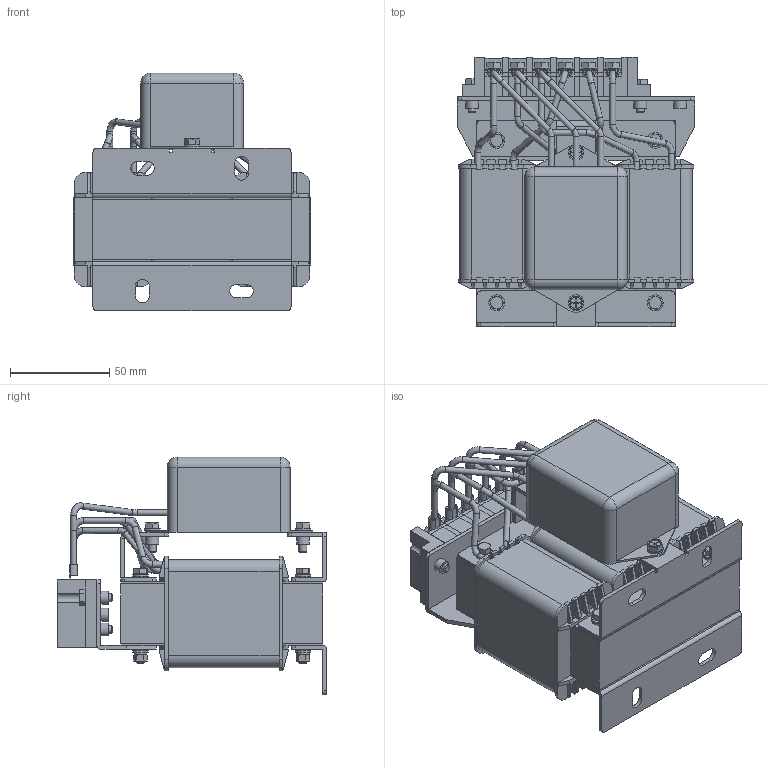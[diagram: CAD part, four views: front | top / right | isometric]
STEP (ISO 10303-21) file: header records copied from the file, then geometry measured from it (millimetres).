
FILE_DESCRIPTION(('STEP AP203'), '1');
FILE_NAME('IDUDT-7.5_20-4 _ dU_dt ôèëüòð 7.5 êÂò', '', ('UNSPECIFIED'), ('UNSPECIFIED'), 'C3D Converter', 'C3D Toolkit', '');
FILE_SCHEMA(('CONFIG_CONTROL_DESIGN'));
Length unit declared in the file: millimetre
Products named in the file (17):  IDUDT-7.5/20-4
Assembly tree (34 placements, depth 3):
   IDUDT-7.5/20-4
    (unnamed)
    (unnamed)  x6
    (unnamed)
    (unnamed)
    (unnamed)
    (unnamed)
    (unnamed)
    (unnamed)
    (unnamed)  x3
    (unnamed)
    (unnamed)  x2
      (unnamed)
      (unnamed)
    (unnamed)
    (unnamed)  x6
    (unnamed)  x6
Bounding box: 120 x 136 x 120 mm (x, y, z)
Volume: 710002.2 mm3; surface area: 235925 mm2
Topology: 125 solids, 125 shells, 2134 faces, 5373 edges, 3525 vertices
Faces by surface type: plane 1661, cylinder 342, cone 102, torus 25, sphere 4
Full cylindrical faces by diameter (mm): 3 x42, 3.369 x6, 4 x24, 4.3 x6, 4.333 x26, 4.376 x6, 5 x2, 6 x15, 6.367 x6, 6.5 x5, 7 x15, 8 x26
Entity records: 54395 total; most frequent: CARTESIAN_POINT 12538, DIRECTION 5969, ORIENTED_EDGE 5934, EDGE_CURVE 2967, LINE 2299, VECTOR 2299, VERTEX_POINT 2052, AXIS2_PLACEMENT_3D 1835
